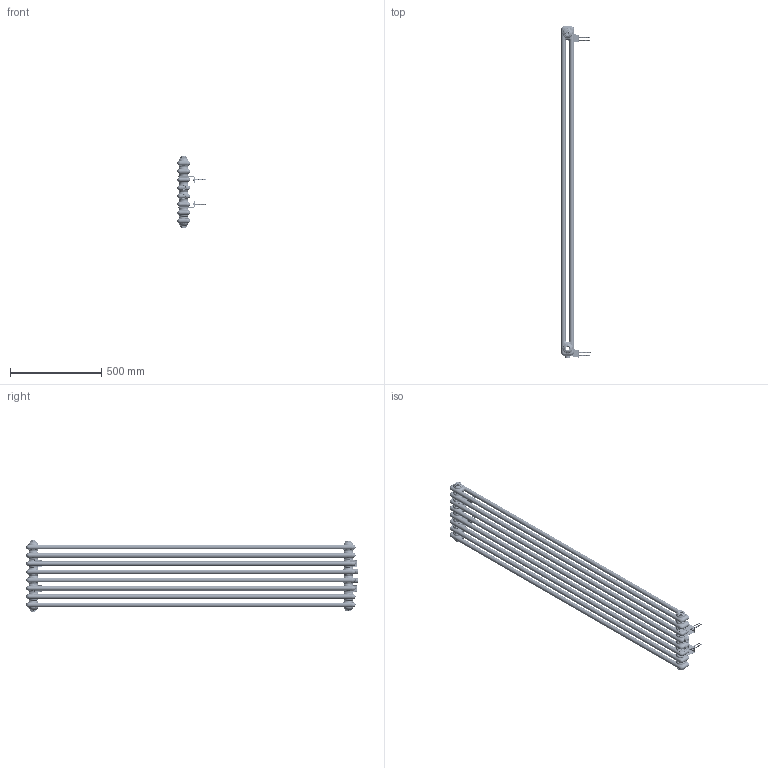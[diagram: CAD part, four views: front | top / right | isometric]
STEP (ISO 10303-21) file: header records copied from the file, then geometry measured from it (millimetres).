
FILE_DESCRIPTION(/* description */ (''),/* implementation_level */ '2;1');
FILE_NAME(/* name */ 'CL02 1800x380 D50',/* time_stamp */ '2023-09-09T14:41:06+08:00',/* author */ (''),/* organization */ (''),/* preprocessor_version */ 'ST-DEVELOPER v9',/* originating_system */ 'UGS - NX 4.0',/* authorisation */ '');
FILE_SCHEMA (('CONFIG_CONTROL_DESIGN'));
Length unit declared in the file: millimetre
Products named in the file (1): AdmiF21Fozes
Bounding box: 161.6 x 1816 x 392 mm (x, y, z)
Volume: 3353223.8 mm3; surface area: 4422163.8 mm2
Topology: 29 solids, 29 shells, 3381 faces, 8291 edges, 4969 vertices
Faces by surface type: bspline 1043, cylinder 847, plane 692, torus 468, cone 331
Full cylindrical faces by diameter (mm): 19 x2, 25 x2
Entity records: 220118 total; most frequent: CARTESIAN_POINT 149590, ORIENTED_EDGE 16546, DIRECTION 12417, EDGE_CURVE 8273, AXIS2_PLACEMENT_3D 5085, VERTEX_POINT 4971, EDGE_LOOP 3512, ADVANCED_FACE 3381
